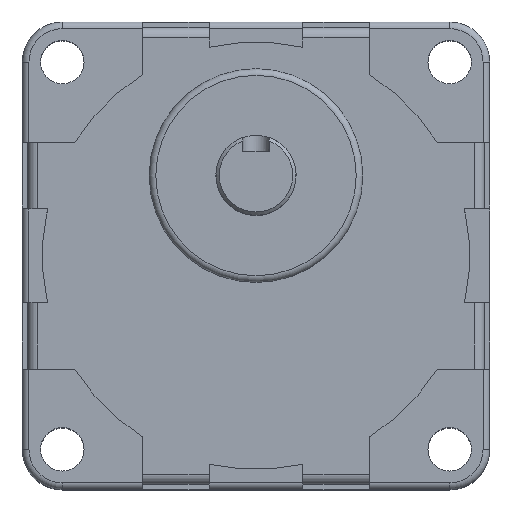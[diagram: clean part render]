
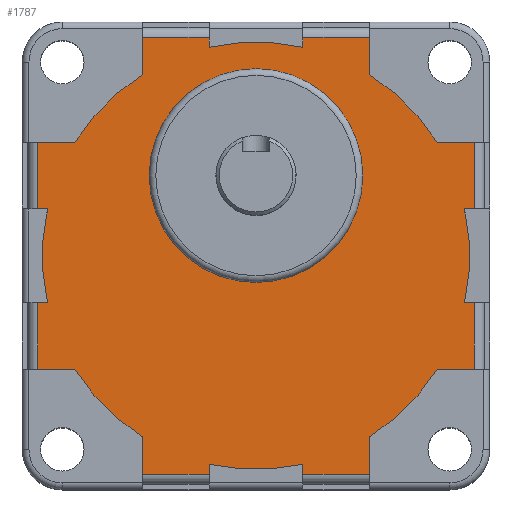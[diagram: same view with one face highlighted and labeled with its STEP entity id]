
A CAD part, top view. The second image highlights one B-rep face of the part: STEP entity #1787.
In plain terms, the highlighted planar face has unit normal (0, 0, 1).
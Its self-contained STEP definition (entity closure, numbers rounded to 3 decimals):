
#36=LINE('',#2727,#208);
#40=LINE('',#2739,#212);
#42=LINE('',#2745,#214);
#43=LINE('',#2749,#215);
#44=LINE('',#2751,#216);
#45=LINE('',#2753,#217);
#46=LINE('',#2757,#218);
#47=LINE('',#2759,#219);
#48=LINE('',#2761,#220);
#49=LINE('',#2765,#221);
#50=LINE('',#2767,#222);
#51=LINE('',#2769,#223);
#52=LINE('',#2773,#224);
#53=LINE('',#2775,#225);
#54=LINE('',#2777,#226);
#55=LINE('',#2781,#227);
#56=LINE('',#2783,#228);
#57=LINE('',#2785,#229);
#58=LINE('',#2789,#230);
#59=LINE('',#2791,#231);
#60=LINE('',#2793,#232);
#61=LINE('',#2796,#233);
#62=LINE('',#2798,#234);
#63=LINE('',#2801,#235);
#208=VECTOR('',#2156,10.);
#212=VECTOR('',#2166,10.);
#214=VECTOR('',#2172,5.589);
#215=VECTOR('',#2175,5.589);
#216=VECTOR('',#2176,10.);
#217=VECTOR('',#2177,1.475);
#218=VECTOR('',#2180,1.475);
#219=VECTOR('',#2181,10.);
#220=VECTOR('',#2182,5.589);
#221=VECTOR('',#2185,5.589);
#222=VECTOR('',#2186,10.);
#223=VECTOR('',#2187,1.475);
#224=VECTOR('',#2190,1.475);
#225=VECTOR('',#2191,10.);
#226=VECTOR('',#2192,5.589);
#227=VECTOR('',#2195,5.589);
#228=VECTOR('',#2196,10.);
#229=VECTOR('',#2197,1.475);
#230=VECTOR('',#2200,1.475);
#231=VECTOR('',#2201,10.);
#232=VECTOR('',#2202,5.589);
#233=VECTOR('',#2205,5.589);
#234=VECTOR('',#2206,1.475);
#235=VECTOR('',#2209,1.475);
#377=PLANE('',#1915);
#475=FACE_BOUND('',#620,.T.);
#504=FACE_OUTER_BOUND('',#619,.T.);
#619=EDGE_LOOP('',(#1313,#1314,#1315,#1316,#1317,#1318,#1319,#1320,#1321,
#1322,#1323,#1324,#1325,#1326,#1327,#1328,#1329,#1330,#1331,#1332,#1333,
#1334,#1335,#1336,#1337,#1338,#1339,#1340,#1341,#1342,#1343,#1344));
#620=EDGE_LOOP('',(#1345));
#729=CIRCLE('',#1906,16.);
#734=CIRCLE('',#1916,32.);
#735=CIRCLE('',#1917,32.);
#736=CIRCLE('',#1918,32.);
#737=CIRCLE('',#1919,32.);
#738=CIRCLE('',#1920,32.);
#739=CIRCLE('',#1921,32.);
#740=CIRCLE('',#1922,32.);
#741=CIRCLE('',#1923,32.);
#828=VERTEX_POINT('',#2716);
#829=VERTEX_POINT('',#2720);
#832=VERTEX_POINT('',#2725);
#836=VERTEX_POINT('',#2736);
#837=VERTEX_POINT('',#2738);
#839=VERTEX_POINT('',#2744);
#840=VERTEX_POINT('',#2746);
#841=VERTEX_POINT('',#2748);
#842=VERTEX_POINT('',#2750);
#843=VERTEX_POINT('',#2752);
#844=VERTEX_POINT('',#2754);
#845=VERTEX_POINT('',#2756);
#846=VERTEX_POINT('',#2758);
#847=VERTEX_POINT('',#2760);
#848=VERTEX_POINT('',#2762);
#849=VERTEX_POINT('',#2764);
#850=VERTEX_POINT('',#2766);
#851=VERTEX_POINT('',#2768);
#852=VERTEX_POINT('',#2770);
#853=VERTEX_POINT('',#2772);
#854=VERTEX_POINT('',#2774);
#855=VERTEX_POINT('',#2776);
#856=VERTEX_POINT('',#2778);
#857=VERTEX_POINT('',#2780);
#858=VERTEX_POINT('',#2782);
#859=VERTEX_POINT('',#2784);
#860=VERTEX_POINT('',#2786);
#861=VERTEX_POINT('',#2788);
#862=VERTEX_POINT('',#2790);
#863=VERTEX_POINT('',#2792);
#864=VERTEX_POINT('',#2794);
#865=VERTEX_POINT('',#2797);
#866=VERTEX_POINT('',#2799);
#1012=EDGE_CURVE('',#828,#828,#729,.T.);
#1016=EDGE_CURVE('',#832,#829,#36,.T.);
#1021=EDGE_CURVE('',#836,#837,#40,.T.);
#1024=EDGE_CURVE('',#832,#839,#42,.T.);
#1025=EDGE_CURVE('',#840,#839,#734,.T.);
#1026=EDGE_CURVE('',#841,#840,#43,.T.);
#1027=EDGE_CURVE('',#842,#841,#44,.T.);
#1028=EDGE_CURVE('',#843,#842,#45,.T.);
#1029=EDGE_CURVE('',#844,#843,#735,.T.);
#1030=EDGE_CURVE('',#844,#845,#46,.T.);
#1031=EDGE_CURVE('',#846,#845,#47,.T.);
#1032=EDGE_CURVE('',#846,#847,#48,.T.);
#1033=EDGE_CURVE('',#848,#847,#736,.T.);
#1034=EDGE_CURVE('',#849,#848,#49,.T.);
#1035=EDGE_CURVE('',#850,#849,#50,.T.);
#1036=EDGE_CURVE('',#851,#850,#51,.T.);
#1037=EDGE_CURVE('',#852,#851,#737,.T.);
#1038=EDGE_CURVE('',#852,#853,#52,.T.);
#1039=EDGE_CURVE('',#854,#853,#53,.T.);
#1040=EDGE_CURVE('',#854,#855,#54,.T.);
#1041=EDGE_CURVE('',#856,#855,#738,.T.);
#1042=EDGE_CURVE('',#857,#856,#55,.T.);
#1043=EDGE_CURVE('',#858,#857,#56,.T.);
#1044=EDGE_CURVE('',#859,#858,#57,.T.);
#1045=EDGE_CURVE('',#860,#859,#739,.T.);
#1046=EDGE_CURVE('',#860,#861,#58,.T.);
#1047=EDGE_CURVE('',#862,#861,#59,.T.);
#1048=EDGE_CURVE('',#862,#863,#60,.T.);
#1049=EDGE_CURVE('',#864,#863,#740,.T.);
#1050=EDGE_CURVE('',#837,#864,#61,.T.);
#1051=EDGE_CURVE('',#865,#836,#62,.T.);
#1052=EDGE_CURVE('',#866,#865,#741,.T.);
#1053=EDGE_CURVE('',#866,#829,#63,.T.);
#1313=ORIENTED_EDGE('',*,*,#1016,.F.);
#1314=ORIENTED_EDGE('',*,*,#1024,.T.);
#1315=ORIENTED_EDGE('',*,*,#1025,.F.);
#1316=ORIENTED_EDGE('',*,*,#1026,.F.);
#1317=ORIENTED_EDGE('',*,*,#1027,.F.);
#1318=ORIENTED_EDGE('',*,*,#1028,.F.);
#1319=ORIENTED_EDGE('',*,*,#1029,.F.);
#1320=ORIENTED_EDGE('',*,*,#1030,.T.);
#1321=ORIENTED_EDGE('',*,*,#1031,.F.);
#1322=ORIENTED_EDGE('',*,*,#1032,.T.);
#1323=ORIENTED_EDGE('',*,*,#1033,.F.);
#1324=ORIENTED_EDGE('',*,*,#1034,.F.);
#1325=ORIENTED_EDGE('',*,*,#1035,.F.);
#1326=ORIENTED_EDGE('',*,*,#1036,.F.);
#1327=ORIENTED_EDGE('',*,*,#1037,.F.);
#1328=ORIENTED_EDGE('',*,*,#1038,.T.);
#1329=ORIENTED_EDGE('',*,*,#1039,.F.);
#1330=ORIENTED_EDGE('',*,*,#1040,.T.);
#1331=ORIENTED_EDGE('',*,*,#1041,.F.);
#1332=ORIENTED_EDGE('',*,*,#1042,.F.);
#1333=ORIENTED_EDGE('',*,*,#1043,.F.);
#1334=ORIENTED_EDGE('',*,*,#1044,.F.);
#1335=ORIENTED_EDGE('',*,*,#1045,.F.);
#1336=ORIENTED_EDGE('',*,*,#1046,.T.);
#1337=ORIENTED_EDGE('',*,*,#1047,.F.);
#1338=ORIENTED_EDGE('',*,*,#1048,.T.);
#1339=ORIENTED_EDGE('',*,*,#1049,.F.);
#1340=ORIENTED_EDGE('',*,*,#1050,.F.);
#1341=ORIENTED_EDGE('',*,*,#1021,.F.);
#1342=ORIENTED_EDGE('',*,*,#1051,.F.);
#1343=ORIENTED_EDGE('',*,*,#1052,.F.);
#1344=ORIENTED_EDGE('',*,*,#1053,.T.);
#1345=ORIENTED_EDGE('',*,*,#1012,.F.);
#1787=ADVANCED_FACE('',(#504,#475),#377,.T.);
#1906=AXIS2_PLACEMENT_3D('',#2717,#2145,#2146);
#1915=AXIS2_PLACEMENT_3D('',#2743,#2170,#2171);
#1916=AXIS2_PLACEMENT_3D('',#2747,#2173,#2174);
#1917=AXIS2_PLACEMENT_3D('',#2755,#2178,#2179);
#1918=AXIS2_PLACEMENT_3D('',#2763,#2183,#2184);
#1919=AXIS2_PLACEMENT_3D('',#2771,#2188,#2189);
#1920=AXIS2_PLACEMENT_3D('',#2779,#2193,#2194);
#1921=AXIS2_PLACEMENT_3D('',#2787,#2198,#2199);
#1922=AXIS2_PLACEMENT_3D('',#2795,#2203,#2204);
#1923=AXIS2_PLACEMENT_3D('',#2800,#2207,#2208);
#2145=DIRECTION('center_axis',(0.,0.,1.));
#2146=DIRECTION('ref_axis',(-1.,0.,0.));
#2156=DIRECTION('',(0.,-1.,0.));
#2166=DIRECTION('',(0.,-1.,0.));
#2170=DIRECTION('center_axis',(0.,0.,1.));
#2171=DIRECTION('ref_axis',(1.,0.,0.));
#2172=DIRECTION('',(-1.,0.,0.));
#2173=DIRECTION('center_axis',(0.,0.,-1.));
#2174=DIRECTION('ref_axis',(-1.,0.,0.));
#2175=DIRECTION('',(0.,-1.,0.));
#2176=DIRECTION('',(1.,0.,0.));
#2177=DIRECTION('',(0.,1.,0.));
#2178=DIRECTION('center_axis',(0.,0.,-1.));
#2179=DIRECTION('ref_axis',(-1.,0.,0.));
#2180=DIRECTION('',(0.,1.,0.));
#2181=DIRECTION('',(1.,0.,0.));
#2182=DIRECTION('',(0.,-1.,0.));
#2183=DIRECTION('center_axis',(0.,0.,-1.));
#2184=DIRECTION('ref_axis',(-1.,0.,0.));
#2185=DIRECTION('',(1.,0.,0.));
#2186=DIRECTION('',(0.,1.,0.));
#2187=DIRECTION('',(-1.,0.,0.));
#2188=DIRECTION('center_axis',(0.,0.,-1.));
#2189=DIRECTION('ref_axis',(-1.,0.,0.));
#2190=DIRECTION('',(-1.,0.,0.));
#2191=DIRECTION('',(0.,1.,0.));
#2192=DIRECTION('',(1.,0.,0.));
#2193=DIRECTION('center_axis',(0.,0.,-1.));
#2194=DIRECTION('ref_axis',(-1.,0.,0.));
#2195=DIRECTION('',(0.,1.,0.));
#2196=DIRECTION('',(-1.,0.,0.));
#2197=DIRECTION('',(0.,-1.,0.));
#2198=DIRECTION('center_axis',(0.,0.,-1.));
#2199=DIRECTION('ref_axis',(-1.,0.,0.));
#2200=DIRECTION('',(0.,-1.,0.));
#2201=DIRECTION('',(-1.,0.,0.));
#2202=DIRECTION('',(0.,1.,0.));
#2203=DIRECTION('center_axis',(0.,0.,-1.));
#2204=DIRECTION('ref_axis',(-1.,0.,0.));
#2205=DIRECTION('',(-1.,0.,0.));
#2206=DIRECTION('',(1.,0.,0.));
#2207=DIRECTION('center_axis',(0.,0.,-1.));
#2208=DIRECTION('ref_axis',(-1.,0.,0.));
#2209=DIRECTION('',(1.,0.,0.));
#2716=CARTESIAN_POINT('',(16.,12.,42.2));
#2717=CARTESIAN_POINT('Origin',(0.,12.,42.2));
#2720=CARTESIAN_POINT('',(32.7,7.,42.2));
#2725=CARTESIAN_POINT('',(32.7,17.,42.2));
#2727=CARTESIAN_POINT('',(32.7,8.5,42.2));
#2736=CARTESIAN_POINT('',(32.7,-7.,42.2));
#2738=CARTESIAN_POINT('',(32.7,-17.,42.2));
#2739=CARTESIAN_POINT('',(32.7,-8.5,42.2));
#2743=CARTESIAN_POINT('Origin',(0.,0.,42.2));
#2744=CARTESIAN_POINT('',(27.111,17.,42.2));
#2745=CARTESIAN_POINT('',(27.111,17.,42.2));
#2746=CARTESIAN_POINT('',(17.,27.111,42.2));
#2747=CARTESIAN_POINT('Origin',(0.,0.,42.2));
#2748=CARTESIAN_POINT('',(17.,32.7,42.2));
#2749=CARTESIAN_POINT('',(17.,27.111,42.2));
#2750=CARTESIAN_POINT('',(7.,32.7,42.2));
#2751=CARTESIAN_POINT('',(8.5,32.7,42.2));
#2752=CARTESIAN_POINT('',(7.,31.225,42.2));
#2753=CARTESIAN_POINT('',(7.,35.,42.2));
#2754=CARTESIAN_POINT('',(-7.,31.225,42.2));
#2755=CARTESIAN_POINT('Origin',(0.,0.,42.2));
#2756=CARTESIAN_POINT('',(-7.,32.7,42.2));
#2757=CARTESIAN_POINT('',(-7.,35.,42.2));
#2758=CARTESIAN_POINT('',(-17.,32.7,42.2));
#2759=CARTESIAN_POINT('',(-8.5,32.7,42.2));
#2760=CARTESIAN_POINT('',(-17.,27.111,42.2));
#2761=CARTESIAN_POINT('',(-17.,27.111,42.2));
#2762=CARTESIAN_POINT('',(-27.111,17.,42.2));
#2763=CARTESIAN_POINT('Origin',(0.,0.,42.2));
#2764=CARTESIAN_POINT('',(-32.7,17.,42.2));
#2765=CARTESIAN_POINT('',(-27.111,17.,42.2));
#2766=CARTESIAN_POINT('',(-32.7,7.,42.2));
#2767=CARTESIAN_POINT('',(-32.7,8.5,42.2));
#2768=CARTESIAN_POINT('',(-31.225,7.,42.2));
#2769=CARTESIAN_POINT('',(-35.,7.,42.2));
#2770=CARTESIAN_POINT('',(-31.225,-7.,42.2));
#2771=CARTESIAN_POINT('Origin',(0.,0.,42.2));
#2772=CARTESIAN_POINT('',(-32.7,-7.,42.2));
#2773=CARTESIAN_POINT('',(-35.,-7.,42.2));
#2774=CARTESIAN_POINT('',(-32.7,-17.,42.2));
#2775=CARTESIAN_POINT('',(-32.7,-8.5,42.2));
#2776=CARTESIAN_POINT('',(-27.111,-17.,42.2));
#2777=CARTESIAN_POINT('',(-27.111,-17.,42.2));
#2778=CARTESIAN_POINT('',(-17.,-27.111,42.2));
#2779=CARTESIAN_POINT('Origin',(0.,0.,42.2));
#2780=CARTESIAN_POINT('',(-17.,-32.7,42.2));
#2781=CARTESIAN_POINT('',(-17.,-27.111,42.2));
#2782=CARTESIAN_POINT('',(-7.,-32.7,42.2));
#2783=CARTESIAN_POINT('',(-8.5,-32.7,42.2));
#2784=CARTESIAN_POINT('',(-7.,-31.225,42.2));
#2785=CARTESIAN_POINT('',(-7.,-35.,42.2));
#2786=CARTESIAN_POINT('',(7.,-31.225,42.2));
#2787=CARTESIAN_POINT('Origin',(0.,0.,42.2));
#2788=CARTESIAN_POINT('',(7.,-32.7,42.2));
#2789=CARTESIAN_POINT('',(7.,-35.,42.2));
#2790=CARTESIAN_POINT('',(17.,-32.7,42.2));
#2791=CARTESIAN_POINT('',(8.5,-32.7,42.2));
#2792=CARTESIAN_POINT('',(17.,-27.111,42.2));
#2793=CARTESIAN_POINT('',(17.,-27.111,42.2));
#2794=CARTESIAN_POINT('',(27.111,-17.,42.2));
#2795=CARTESIAN_POINT('Origin',(0.,0.,42.2));
#2796=CARTESIAN_POINT('',(27.111,-17.,42.2));
#2797=CARTESIAN_POINT('',(31.225,-7.,42.2));
#2798=CARTESIAN_POINT('',(35.,-7.,42.2));
#2799=CARTESIAN_POINT('',(31.225,7.,42.2));
#2800=CARTESIAN_POINT('Origin',(0.,0.,42.2));
#2801=CARTESIAN_POINT('',(35.,7.,42.2));
